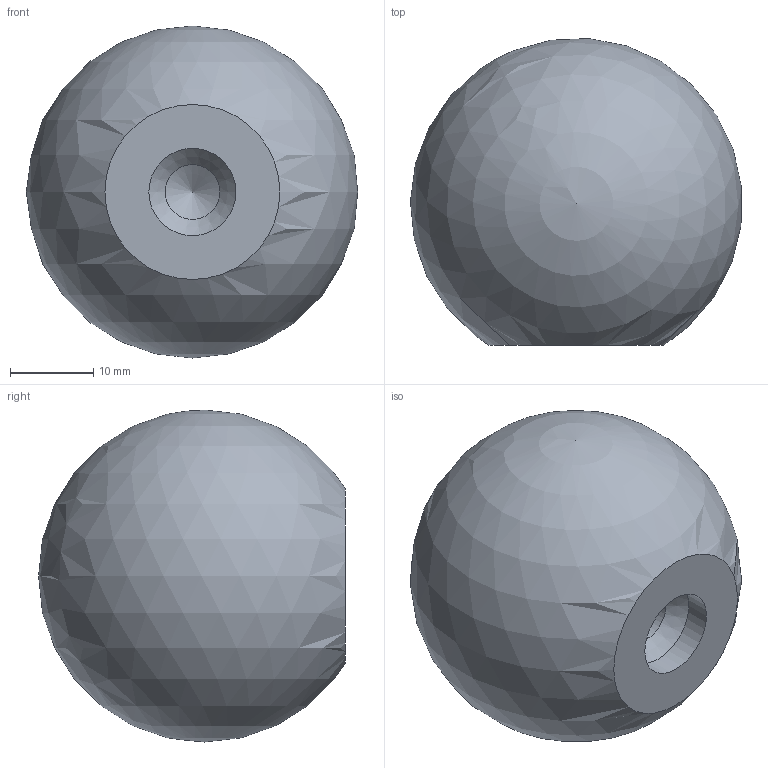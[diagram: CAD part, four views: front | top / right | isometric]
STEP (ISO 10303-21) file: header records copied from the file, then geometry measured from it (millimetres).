
FILE_DESCRIPTION (( 'STEP AP214' ), '1' );
FILE_NAME ('319-KU-40-M8-C.step', '2019-04-24T08:50:28', ( 'user' ), ( '' ), 'SwSTEP 2.0', 'SolidWorks 2019', '' );
FILE_SCHEMA (( 'AUTOMOTIVE_DESIGN' ));
Length unit declared in the file: millimetre
Products named in the file (1): 319-KU-40-M8-C
Bounding box: 39.9 x 36.95 x 40 mm (x, y, z)
Volume: 32130.3 mm3; surface area: 5395.2 mm2
Topology: 1 solids, 1 shells, 6 faces, 15 edges, 10 vertices
Faces by surface type: cone 2, cylinder 2, plane 1, sphere 1
Full cylindrical faces by diameter (mm): 6.6 x1, 10.5 x1
Entity records: 159 total; most frequent: DIRECTION 24, CARTESIAN_POINT 17, AXIS2_PLACEMENT_3D 12, EDGE_LOOP 10, ORIENTED_EDGE 10, FACE_OUTER_BOUND 8, ADVANCED_FACE 6, CIRCLE 5
